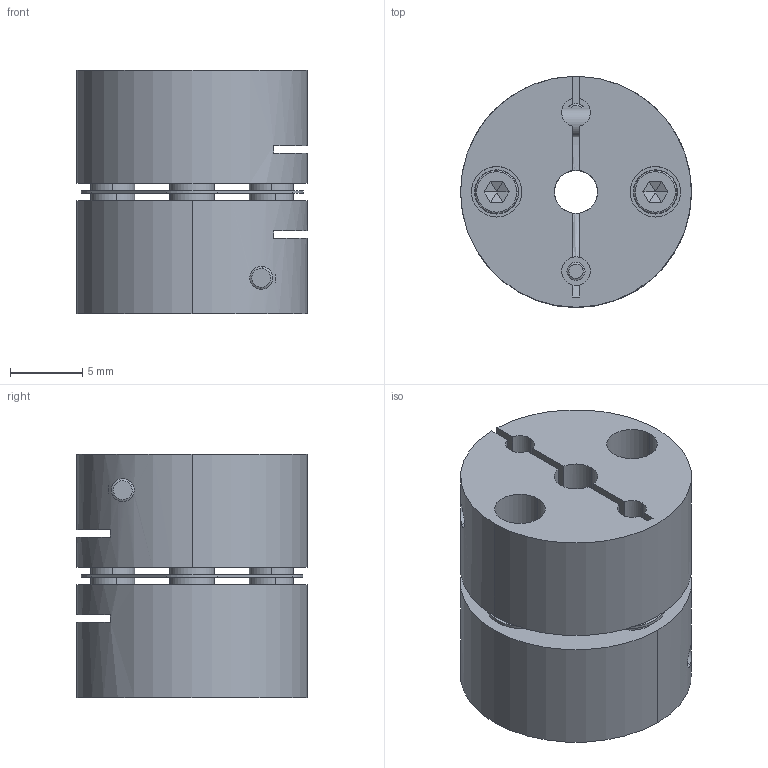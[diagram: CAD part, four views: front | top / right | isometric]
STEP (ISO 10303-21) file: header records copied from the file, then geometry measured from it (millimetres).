
FILE_DESCRIPTION (( 'STEP AP214' ), '1' );
FILE_NAME ('LC-A-005SA-3B-3B.STEP', '2019-09-12T07:13:55', ( 'admin' ), ( 'Microsoft' ), 'SwSTEP 2.0', 'SolidWorks 2016', '' );
FILE_SCHEMA (( 'AUTOMOTIVE_DESIGN' ));
Length unit declared in the file: millimetre
Products named in the file (1): LC-A-005SA-3B-3B
Bounding box: 16 x 16 x 16.9 mm (x, y, z)
Volume: 2594.1 mm3; surface area: 3459.9 mm2
Topology: 17 solids, 17 shells, 328 faces, 780 edges, 490 vertices
Faces by surface type: plane 152, cylinder 140, torus 24, cone 12
Entity records: 13658 total; most frequent: CARTESIAN_POINT 1919, DIRECTION 1754, ORIENTED_EDGE 1560, EDGE_CURVE 780, AXIS2_PLACEMENT_3D 677, VERTEX_POINT 490, LINE 400, VECTOR 400
